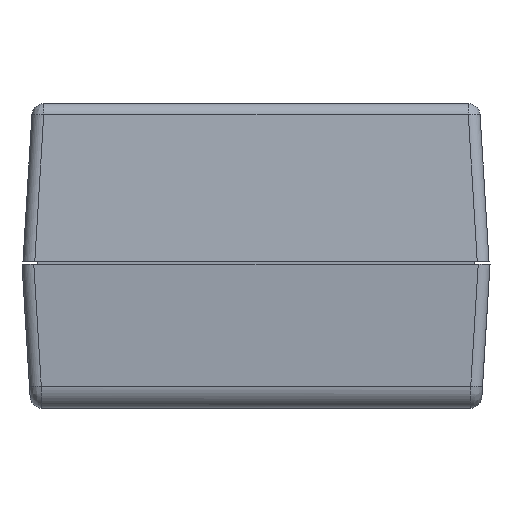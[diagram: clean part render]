
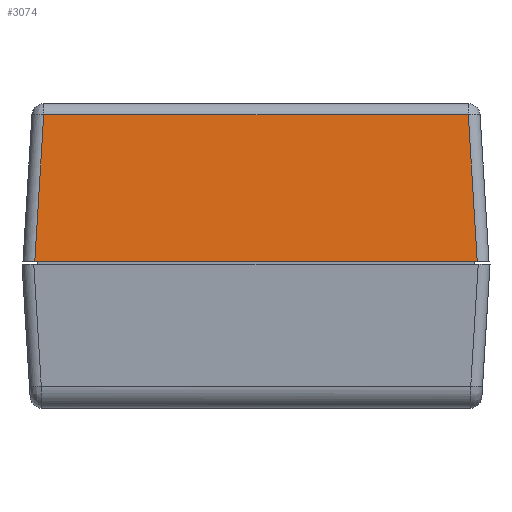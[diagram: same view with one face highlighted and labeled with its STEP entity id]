
A CAD part, front view. The second image highlights one B-rep face of the part: STEP entity #3074.
In plain terms, the highlighted planar face has unit normal (0, -0.998, 0.061).
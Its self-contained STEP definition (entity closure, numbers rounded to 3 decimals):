
#50 = CARTESIAN_POINT ( 'NONE',  ( -28.417, -92.791, 20.592 ) ) ;
#97 = VECTOR ( 'NONE', #3860, 1000. ) ;
#137 = VECTOR ( 'NONE', #2171, 1000. ) ;
#188 = CARTESIAN_POINT ( 'NONE',  ( 0., -92.791, 20.592 ) ) ;
#253 = CARTESIAN_POINT ( 'NONE',  ( -27.516, -93.364, 11.221 ) ) ;
#347 = VERTEX_POINT ( 'NONE', #496 ) ;
#386 = VECTOR ( 'NONE', #1530, 1000. ) ;
#496 = CARTESIAN_POINT ( 'NONE',  ( 28.08, -93.928, 2. ) ) ;
#628 = LINE ( 'NONE', #4187, #4054 ) ;
#955 = LINE ( 'NONE', #188, #97 ) ;
#1149 = LINE ( 'NONE', #1493, #137 ) ;
#1236 = EDGE_CURVE ( 'NONE', #1745, #2867, #1681, .T. ) ;
#1493 = CARTESIAN_POINT ( 'NONE',  ( 0., -93.928, 2. ) ) ;
#1530 = DIRECTION ( 'NONE',  ( -0.061, -0.061, -0.996 ) ) ;
#1532 = AXIS2_PLACEMENT_3D ( 'NONE', #50, #3322, #3019 ) ;
#1681 = LINE ( 'NONE', #253, #386 ) ;
#1745 = VERTEX_POINT ( 'NONE', #3266 ) ;
#1825 = CARTESIAN_POINT ( 'NONE',  ( -28.08, -93.928, 2. ) ) ;
#1883 = ORIENTED_EDGE ( 'NONE', *, *, #3468, .F. ) ;
#1982 = PLANE ( 'NONE',  #1532 ) ;
#2020 = EDGE_LOOP ( 'NONE', ( #4175, #3161, #1883, #3518 ) ) ;
#2171 = DIRECTION ( 'NONE',  ( -1., 0., 0. ) ) ;
#2522 = DIRECTION ( 'NONE',  ( -0.061, 0.061, 0.996 ) ) ;
#2867 = VERTEX_POINT ( 'NONE', #1825 ) ;
#2873 = EDGE_CURVE ( 'NONE', #347, #3994, #628, .T. ) ;
#3017 = FACE_OUTER_BOUND ( 'NONE', #2020, .T. ) ;
#3019 = DIRECTION ( 'NONE',  ( 0., -0.061, -0.998 ) ) ;
#3074 = ADVANCED_FACE ( 'NONE', ( #3017 ), #1982, .T. ) ;
#3161 = ORIENTED_EDGE ( 'NONE', *, *, #1236, .T. ) ;
#3266 = CARTESIAN_POINT ( 'NONE',  ( -26.943, -92.791, 20.592 ) ) ;
#3322 = DIRECTION ( 'NONE',  ( 0., -0.998, 0.061 ) ) ;
#3345 = CARTESIAN_POINT ( 'NONE',  ( 26.943, -92.791, 20.592 ) ) ;
#3468 = EDGE_CURVE ( 'NONE', #347, #2867, #1149, .T. ) ;
#3495 = EDGE_CURVE ( 'NONE', #3994, #1745, #955, .T. ) ;
#3518 = ORIENTED_EDGE ( 'NONE', *, *, #2873, .T. ) ;
#3860 = DIRECTION ( 'NONE',  ( -1., 0., 0. ) ) ;
#3994 = VERTEX_POINT ( 'NONE', #3345 ) ;
#4054 = VECTOR ( 'NONE', #2522, 1000. ) ;
#4175 = ORIENTED_EDGE ( 'NONE', *, *, #3495, .T. ) ;
#4187 = CARTESIAN_POINT ( 'NONE',  ( 28.08, -93.928, 2. ) ) ;
